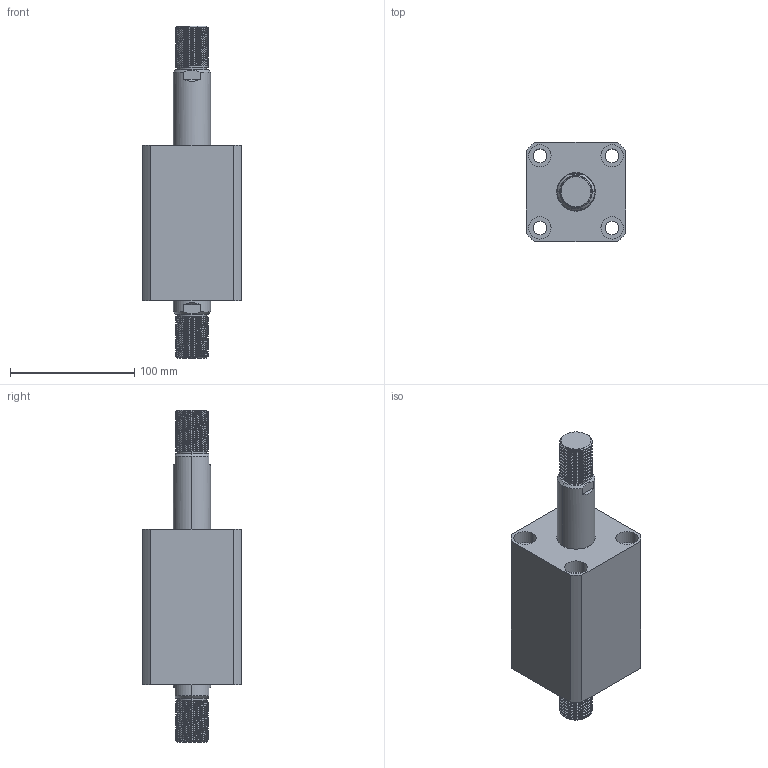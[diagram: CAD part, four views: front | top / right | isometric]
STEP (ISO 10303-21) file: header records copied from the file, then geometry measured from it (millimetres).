
FILE_DESCRIPTION (( 'STEP AP203' ), '1' );
FILE_NAME ('CHTB-SW50-50W.STEP', '2018-05-22T11:22:29', ( '' ), ( '' ), 'SwSTEP 2.0', 'SolidWorks 2015', '' );
FILE_SCHEMA (( 'CONFIG_CONTROL_DESIGN' ));
Length unit declared in the file: millimetre
Products named in the file (4): 活塞杆SW50-50W; 掛极SW50-50W; CHTB-SW50-50W; ヶ裔
Assembly tree (3 placements, depth 2):
  CHTB-SW50-50W
    掛极SW50-50W
    活塞杆SW50-50W
    ヶ裔
Bounding box: 80 x 80 x 267 mm (x, y, z)
Volume: 741360.7 mm3; surface area: 137525 mm2
Topology: 3 solids, 3 shells, 314 faces, 794 edges, 514 vertices
Faces by surface type: cylinder 202, plane 51, cone 29, torus 24, bspline 8
Entity records: 17377 total; most frequent: CARTESIAN_POINT 10049, ORIENTED_EDGE 1580, DIRECTION 1358, EDGE_CURVE 790, AXIS2_PLACEMENT_3D 549, VERTEX_POINT 514, EDGE_LOOP 362, ADVANCED_FACE 314
